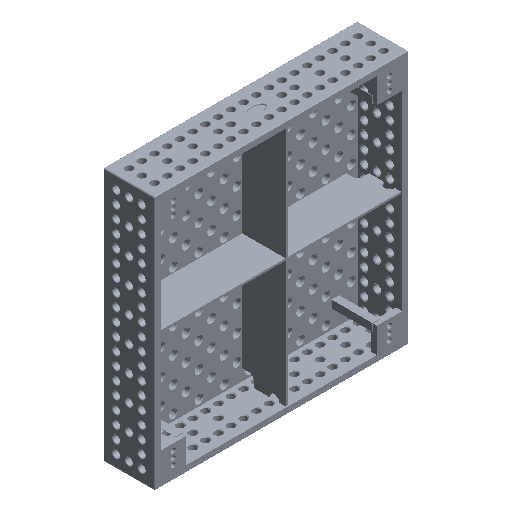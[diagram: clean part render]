
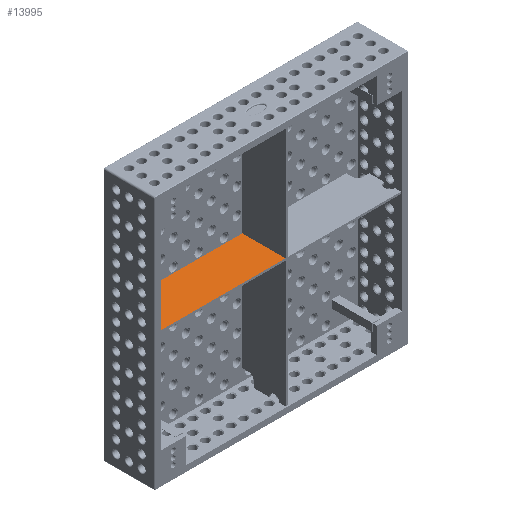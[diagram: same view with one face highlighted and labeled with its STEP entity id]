
A CAD part, isometric view. The second image highlights one B-rep face of the part: STEP entity #13995.
In plain terms, the highlighted planar face has unit normal (0, 0, 1).
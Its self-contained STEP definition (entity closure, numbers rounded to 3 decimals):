
#160 = VERTEX_POINT ( 'NONE', #58451 ) ;
#241 = EDGE_CURVE ( 'NONE', #32849, #16629, #71613, .T. ) ;
#521 = ORIENTED_EDGE ( 'NONE', *, *, #24544, .T. ) ;
#1185 = EDGE_CURVE ( 'NONE', #29656, #160, #58000, .T. ) ;
#1337 = EDGE_CURVE ( 'NONE', #51258, #29656, #64322, .T. ) ;
#3437 = ORIENTED_EDGE ( 'NONE', *, *, #1337, .T. ) ;
#4848 = LINE ( 'NONE', #38466, #68623 ) ;
#6413 = ORIENTED_EDGE ( 'NONE', *, *, #241, .T. ) ;
#7190 = CARTESIAN_POINT ( 'NONE',  ( -450., -70., 29. ) ) ;
#7504 = CARTESIAN_POINT ( 'NONE',  ( -475., -195., 29. ) ) ;
#10911 = CARTESIAN_POINT ( 'NONE',  ( -430., -50., 29. ) ) ;
#12104 = DIRECTION ( 'NONE',  ( 0., 0., -1. ) ) ;
#13995 = ADVANCED_FACE ( 'NONE', ( #54320 ), #26558, .T. ) ;
#14074 = CARTESIAN_POINT ( 'NONE',  ( 21., -195., 29. ) ) ;
#16382 = VECTOR ( 'NONE', #70897, 1000. ) ;
#16629 = VERTEX_POINT ( 'NONE', #14074 ) ;
#16872 = LINE ( 'NONE', #50818, #67805 ) ;
#18875 = CARTESIAN_POINT ( 'NONE',  ( -430., -25., 29. ) ) ;
#19672 = CARTESIAN_POINT ( 'NONE',  ( -475., -130., 29. ) ) ;
#20465 = CARTESIAN_POINT ( 'NONE',  ( -430., -50., 29. ) ) ;
#21140 = LINE ( 'NONE', #64269, #56279 ) ;
#24544 = EDGE_CURVE ( 'NONE', #27981, #28526, #39744, .T. ) ;
#24713 = EDGE_CURVE ( 'NONE', #28526, #32849, #16872, .T. ) ;
#25315 = ORIENTED_EDGE ( 'NONE', *, *, #24713, .T. ) ;
#25791 = CARTESIAN_POINT ( 'NONE',  ( -475., -170., 29. ) ) ;
#26558 = PLANE ( 'NONE',  #65654 ) ;
#27981 = VERTEX_POINT ( 'NONE', #19672 ) ;
#28371 = DIRECTION ( 'NONE',  ( 1., 0., 0. ) ) ;
#28526 = VERTEX_POINT ( 'NONE', #25791 ) ;
#29656 = VERTEX_POINT ( 'NONE', #10911 ) ;
#30708 = DIRECTION ( 'NONE',  ( 0., -1., 0. ) ) ;
#32581 = CARTESIAN_POINT ( 'NONE',  ( -475., -150., 29. ) ) ;
#32849 = VERTEX_POINT ( 'NONE', #7504 ) ;
#33896 = DIRECTION ( 'NONE',  ( -1., 0., 0. ) ) ;
#34978 = LINE ( 'NONE', #7190, #48044 ) ;
#38228 = ORIENTED_EDGE ( 'NONE', *, *, #61449, .T. ) ;
#38466 = CARTESIAN_POINT ( 'NONE',  ( -475., -70., 29. ) ) ;
#38807 = DIRECTION ( 'NONE',  ( 1., 0., 0. ) ) ;
#39157 = DIRECTION ( 'NONE',  ( 0., -1., 0. ) ) ;
#39498 = DIRECTION ( 'NONE',  ( -1., 0., 0. ) ) ;
#39744 = CIRCLE ( 'NONE', #58396, 20. ) ;
#39877 = CARTESIAN_POINT ( 'NONE',  ( -475., -70., 29. ) ) ;
#40942 = ORIENTED_EDGE ( 'NONE', *, *, #44440, .F. ) ;
#42827 = DIRECTION ( 'NONE',  ( 0., 0., -1. ) ) ;
#43066 = DIRECTION ( 'NONE',  ( 0., -1., 0. ) ) ;
#43944 = DIRECTION ( 'NONE',  ( 0., -1., 0. ) ) ;
#44440 = EDGE_CURVE ( 'NONE', #55348, #16629, #21140, .T. ) ;
#44974 = CARTESIAN_POINT ( 'NONE',  ( -430., -25., 29. ) ) ;
#45021 = VECTOR ( 'NONE', #39498, 1000. ) ;
#45986 = EDGE_CURVE ( 'NONE', #55348, #51258, #46028, .T. ) ;
#46028 = LINE ( 'NONE', #44974, #45021 ) ;
#46062 = CARTESIAN_POINT ( 'NONE',  ( -450., -50., 29. ) ) ;
#46853 = ORIENTED_EDGE ( 'NONE', *, *, #53914, .T. ) ;
#48044 = VECTOR ( 'NONE', #33896, 1000. ) ;
#48572 = CARTESIAN_POINT ( 'NONE',  ( -475., -195., 29. ) ) ;
#48836 = CARTESIAN_POINT ( 'NONE',  ( -475., -150., 29. ) ) ;
#50818 = CARTESIAN_POINT ( 'NONE',  ( -475., -170., 29. ) ) ;
#50997 = DIRECTION ( 'NONE',  ( 0., 0., 1. ) ) ;
#51258 = VERTEX_POINT ( 'NONE', #18875 ) ;
#51373 = ORIENTED_EDGE ( 'NONE', *, *, #1185, .T. ) ;
#53914 = EDGE_CURVE ( 'NONE', #160, #57439, #34978, .T. ) ;
#54320 = FACE_OUTER_BOUND ( 'NONE', #67917, .T. ) ;
#55348 = VERTEX_POINT ( 'NONE', #68622 ) ;
#55569 = VECTOR ( 'NONE', #30708, 1000. ) ;
#56279 = VECTOR ( 'NONE', #43066, 1000. ) ;
#57439 = VERTEX_POINT ( 'NONE', #39877 ) ;
#58000 = CIRCLE ( 'NONE', #70871, 20. ) ;
#58396 = AXIS2_PLACEMENT_3D ( 'NONE', #32581, #42827, #38807 ) ;
#58451 = CARTESIAN_POINT ( 'NONE',  ( -450., -70., 29. ) ) ;
#61449 = EDGE_CURVE ( 'NONE', #57439, #27981, #4848, .T. ) ;
#61746 = ORIENTED_EDGE ( 'NONE', *, *, #45986, .T. ) ;
#64269 = CARTESIAN_POINT ( 'NONE',  ( 21., -150., 29. ) ) ;
#64322 = LINE ( 'NONE', #20465, #55569 ) ;
#65654 = AXIS2_PLACEMENT_3D ( 'NONE', #48836, #50997, #28371 ) ;
#67805 = VECTOR ( 'NONE', #39157, 1000. ) ;
#67917 = EDGE_LOOP ( 'NONE', ( #40942, #61746, #3437, #51373, #46853, #38228, #521, #25315, #6413 ) ) ;
#68371 = DIRECTION ( 'NONE',  ( 1., 0., 0. ) ) ;
#68622 = CARTESIAN_POINT ( 'NONE',  ( 21., -25., 29. ) ) ;
#68623 = VECTOR ( 'NONE', #43944, 1000. ) ;
#70871 = AXIS2_PLACEMENT_3D ( 'NONE', #46062, #12104, #68371 ) ;
#70897 = DIRECTION ( 'NONE',  ( 1., 0., 0. ) ) ;
#71613 = LINE ( 'NONE', #48572, #16382 ) ;
